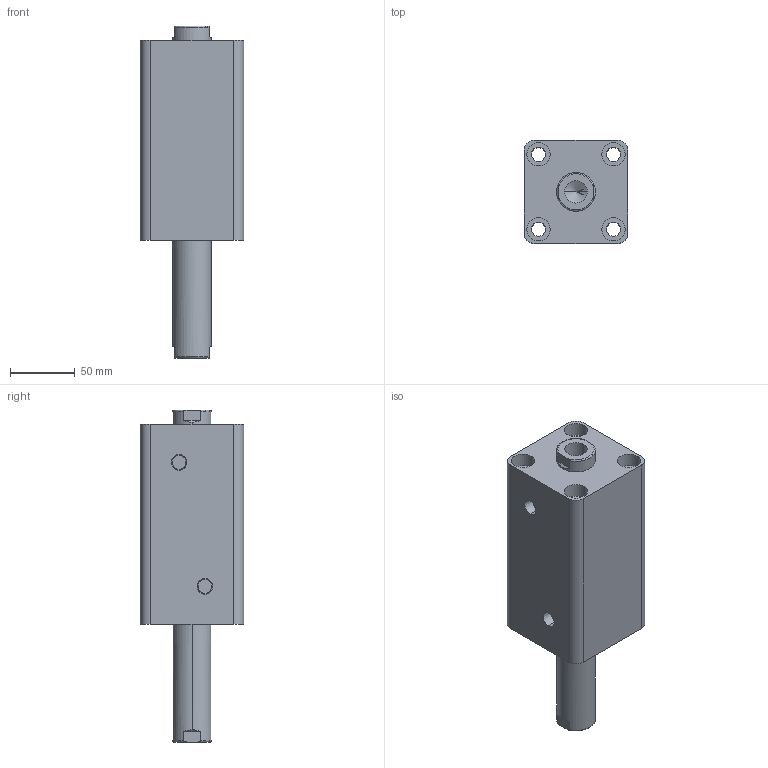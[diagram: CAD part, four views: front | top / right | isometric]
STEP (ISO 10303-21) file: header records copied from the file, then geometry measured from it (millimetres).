
FILE_DESCRIPTION (( 'STEP AP203' ), '1' );
FILE_NAME ('HTB-SW50-80N.STEP', '2019-10-07T09:24:04', ( '微软用户' ), ( '微软中国' ), 'SwSTEP 2.0', 'SolidWorks 2012', '' );
FILE_SCHEMA (( 'CONFIG_CONTROL_DESIGN' ));
Length unit declared in the file: millimetre
Products named in the file (3): HTB-SW50-80N; HTB-SW50-80N活塞杆; HTB-SW50-80掛极
Assembly tree (2 placements, depth 2):
  HTB-SW50-80N
    HTB-SW50-80掛极
    HTB-SW50-80N活塞杆
Bounding box: 80 x 80 x 257 mm (x, y, z)
Volume: 866723 mm3; surface area: 137680.6 mm2
Topology: 2 solids, 2 shells, 100 faces, 228 edges, 146 vertices
Faces by surface type: cylinder 48, plane 32, torus 12, cone 8
Entity records: 3237 total; most frequent: CARTESIAN_POINT 595, DIRECTION 542, ORIENTED_EDGE 448, AXIS2_PLACEMENT_3D 229, EDGE_CURVE 224, VERTEX_POINT 146, EDGE_LOOP 128, CIRCLE 124
